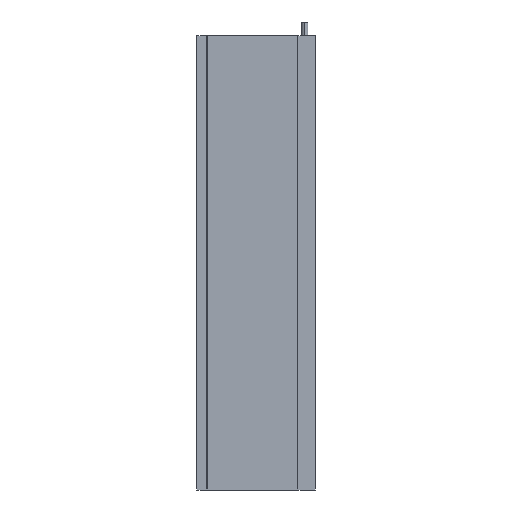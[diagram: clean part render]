
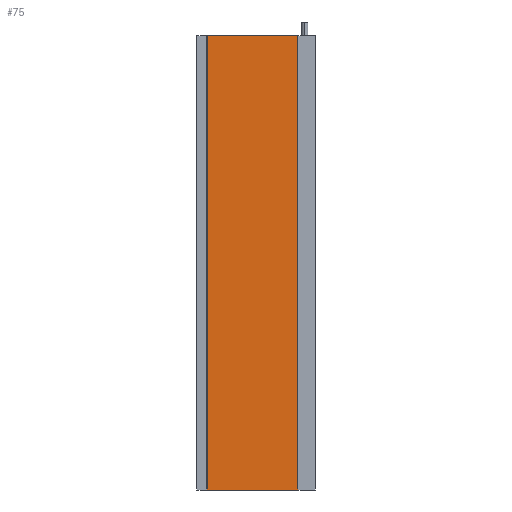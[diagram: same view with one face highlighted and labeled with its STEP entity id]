
A CAD part, left-side view. The second image highlights one B-rep face of the part: STEP entity #75.
In plain terms, the highlighted planar face has unit normal (-1, 0, 0).
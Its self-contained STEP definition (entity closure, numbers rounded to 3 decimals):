
#44 = VECTOR ( 'NONE', #3612, 1000. ) ;
#52 = DIRECTION ( 'NONE',  ( 0., -1., 0. ) ) ;
#75 = ADVANCED_FACE ( 'NONE', ( #253 ), #131, .F. ) ;
#131 = PLANE ( 'NONE',  #1227 ) ;
#158 = CARTESIAN_POINT ( 'NONE',  ( -5.31, -15.5, 673. ) ) ;
#240 = CARTESIAN_POINT ( 'NONE',  ( -5.31, -15.5, 673. ) ) ;
#253 = FACE_OUTER_BOUND ( 'NONE', #2596, .T. ) ;
#477 = DIRECTION ( 'NONE',  ( 1., 0., 0. ) ) ;
#499 = LINE ( 'NONE', #3463, #2761 ) ;
#616 = ORIENTED_EDGE ( 'NONE', *, *, #3608, .T. ) ;
#982 = LINE ( 'NONE', #158, #1768 ) ;
#1009 = VERTEX_POINT ( 'NONE', #3563 ) ;
#1227 = AXIS2_PLACEMENT_3D ( 'NONE', #3568, #477, #3333 ) ;
#1372 = CARTESIAN_POINT ( 'NONE',  ( -5.31, -149.9, 673. ) ) ;
#1377 = VERTEX_POINT ( 'NONE', #3432 ) ;
#1393 = DIRECTION ( 'NONE',  ( 0., -1., 0. ) ) ;
#1638 = LINE ( 'NONE', #2541, #2610 ) ;
#1768 = VECTOR ( 'NONE', #2987, 1000. ) ;
#1858 = EDGE_CURVE ( 'NONE', #1377, #1009, #499, .T. ) ;
#2231 = ORIENTED_EDGE ( 'NONE', *, *, #3146, .F. ) ;
#2518 = VERTEX_POINT ( 'NONE', #240 ) ;
#2541 = CARTESIAN_POINT ( 'NONE',  ( -5.31, -149.9, 673. ) ) ;
#2596 = EDGE_LOOP ( 'NONE', ( #3163, #2231, #2994, #616 ) ) ;
#2610 = VECTOR ( 'NONE', #1393, 1000. ) ;
#2761 = VECTOR ( 'NONE', #52, 1000. ) ;
#2987 = DIRECTION ( 'NONE',  ( 0., 0., -1. ) ) ;
#2994 = ORIENTED_EDGE ( 'NONE', *, *, #3619, .F. ) ;
#3018 = LINE ( 'NONE', #3324, #44 ) ;
#3146 = EDGE_CURVE ( 'NONE', #3266, #1009, #3018, .T. ) ;
#3163 = ORIENTED_EDGE ( 'NONE', *, *, #1858, .T. ) ;
#3266 = VERTEX_POINT ( 'NONE', #1372 ) ;
#3324 = CARTESIAN_POINT ( 'NONE',  ( -5.31, -149.9, 673. ) ) ;
#3333 = DIRECTION ( 'NONE',  ( 0., 1., 0. ) ) ;
#3432 = CARTESIAN_POINT ( 'NONE',  ( -5.31, -15.5, 0. ) ) ;
#3463 = CARTESIAN_POINT ( 'NONE',  ( -5.31, -149.9, 0. ) ) ;
#3563 = CARTESIAN_POINT ( 'NONE',  ( -5.31, -149.9, 0. ) ) ;
#3568 = CARTESIAN_POINT ( 'NONE',  ( -5.31, -149.9, 673. ) ) ;
#3608 = EDGE_CURVE ( 'NONE', #2518, #1377, #982, .T. ) ;
#3612 = DIRECTION ( 'NONE',  ( 0., 0., -1. ) ) ;
#3619 = EDGE_CURVE ( 'NONE', #2518, #3266, #1638, .T. ) ;
